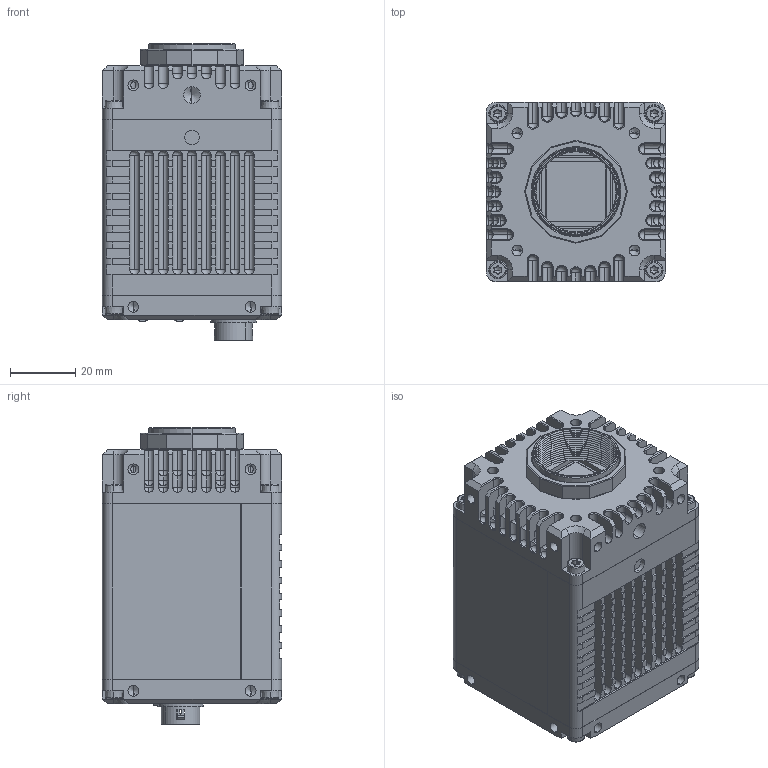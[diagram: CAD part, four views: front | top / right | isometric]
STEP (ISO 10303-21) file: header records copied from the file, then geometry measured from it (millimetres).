
FILE_DESCRIPTION (( 'STEP AP214' ), '1' );
FILE_NAME ('4068060 - Kamera Goldeye G-130 VSWIR T1.STEP', '2021-03-09T07:59:41', ( '' ), ( '' ), 'SwSTEP 2.0', 'SolidWorks 2019', '' );
FILE_SCHEMA (( 'AUTOMOTIVE_DESIGN' ));
Length unit declared in the file: millimetre
Products named in the file (1): 4068060 - Kamera Goldeye G-130 VSWIR T1
Bounding box: 55.01 x 55 x 91.12 mm (x, y, z)
Surface area: 73702.2 mm2 (no closed solid volume)
Topology: 0 solids, 45 shells, 3969 faces, 10253 edges, 6420 vertices
Faces by surface type: plane 1814, cylinder 1317, bspline 385, cone 321, sphere 98, torus 34
Entity records: 174148 total; most frequent: CARTESIAN_POINT 35328, ORIENTED_EDGE 20098, DIRECTION 18966, EDGE_CURVE 10049, VERTEX_POINT 6406, LINE 6330, VECTOR 6330, AXIS2_PLACEMENT_3D 6318
